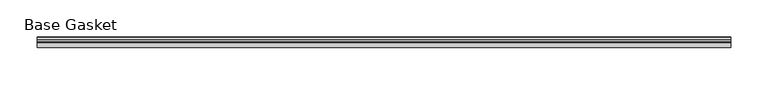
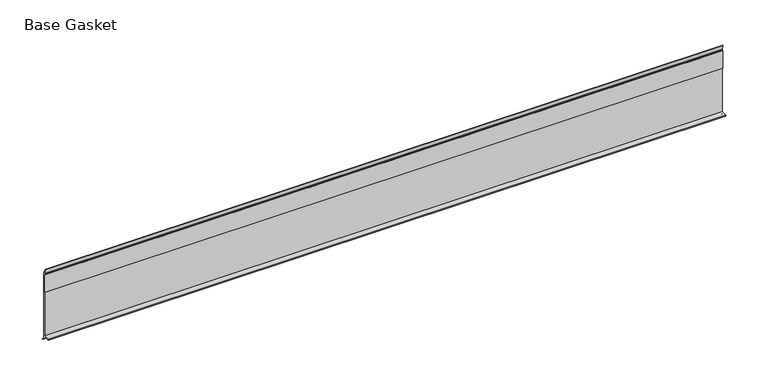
"""IFC4 building model written with IfcOpenShell, lengths in millimetres: furniture geometry, Gasket-Teknion-FHGB-AI_Healthcare-R2021 : Base Gasket."""

from ifc_helpers import new_model, si_unit, frame, origin, place, context, project, spatial, polyline, outline, extrude, source, transform, mapped, element, save


def base_gasket_50c4a484(model_context):
    return source(origin(), model_context, "Body", "SweptSolid", [
        extrude(outline(polyline([(3.7283812, 98.4568417), (3.7283812, 4.3498477), (7.4222115, 0.6560174), (7.8482342, 0.0), (6.8281054, 0.3520979), (2.2043812, 4.3498477), (2.1334222, 6.3818476), (-6.2405171, 6.3818476), (-6.2405171, 7.9398773), (2.2043812, 7.9398773), (2.2043812, 71.4693447), (1.4106313, 71.4693447), (1.4106313, 96.8693477), (2.2043812, 96.8693477), (2.2043812, 98.4568417), (0.6755308, 104.4162708), (0.6755308, 105.2002997), (1.1891543, 104.587663), (3.7283812, 98.4568417)])), frame((-1527.8982117, 0.0, 0.0), z_axis=(1.0, 0.0, 0.0), x_axis=(0.0, 1.0, 0.0)), (0.0, 0.0, 1.0), 927.1),
    ])


if __name__ == "__main__":
    model = new_model("IFC4")
    model_context = context("Model", 3, world=origin())
    ifc_project = project(units=[si_unit("LENGTHUNIT", "METRE", prefix="MILLI")], contexts=[model_context])
    site = spatial("IfcSite", under=ifc_project)
    building = spatial("IfcBuilding", under=site)
    placement = place(None, origin())
    base_gasket_shape = base_gasket_50c4a484(model_context)
    element("IfcFurniture", 1, ObjectType="Gasket-Teknion-FHGB-AI_Healthcare-R2021 : Base Gasket", at=placement, inside=building, context=model_context, shape_type="MappedRepresentation", body=[
        mapped(base_gasket_shape, transform((0.0, 0.0, 0.0), x_axis=(1.0, 0.0, 0.0), y_axis=(0.0, 1.0, 0.0), z_axis=(0.0, 0.0, 1.0))),
    ])
    save(model, "model.ifc")
